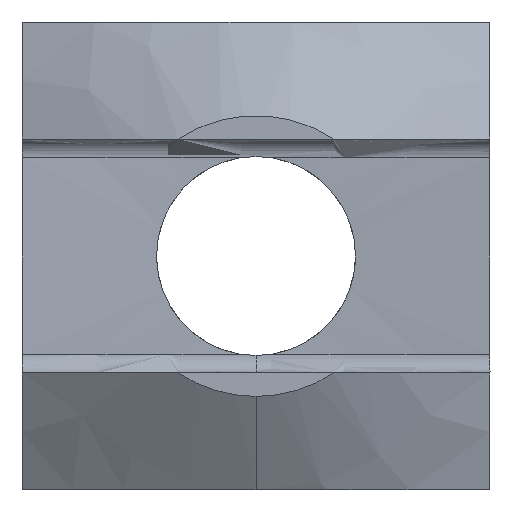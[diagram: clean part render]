
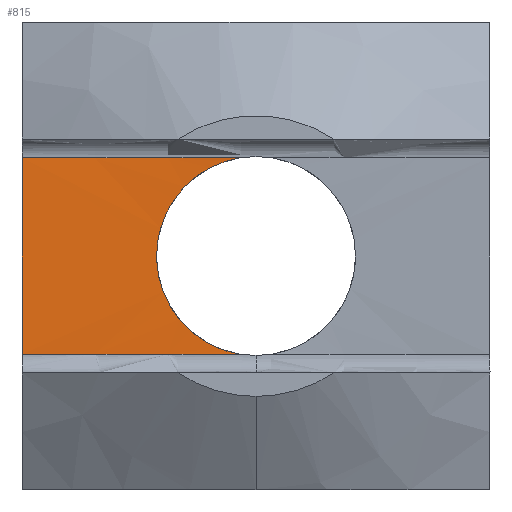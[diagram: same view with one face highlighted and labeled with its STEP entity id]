
A CAD part, left-side view. The second image highlights one B-rep face of the part: STEP entity #815.
In plain terms, the highlighted cylindrical face has radius 125 mm (diameter 250 mm), a partial arc.
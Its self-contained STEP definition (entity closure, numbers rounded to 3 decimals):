
#11 = VERTEX_POINT ( 'NONE', #666 ) ;
#30 = EDGE_CURVE ( 'NONE', #1112, #1405, #437, .T. ) ;
#32 = AXIS2_PLACEMENT_3D ( 'NONE', #301, #1082, #426 ) ;
#56 = CARTESIAN_POINT ( 'NONE',  ( 20.396, 1.147, -4.1 ) ) ;
#158 = CARTESIAN_POINT ( 'NONE',  ( 20.396, 1.143, 4.101 ) ) ;
#169 = CARTESIAN_POINT ( 'NONE',  ( 20.39, 1.616, 3.939 ) ) ;
#192 = ORIENTED_EDGE ( 'NONE', *, *, #967, .F. ) ;
#235 = CARTESIAN_POINT ( 'NONE',  ( 20., 10., 4.2 ) ) ;
#279 = CARTESIAN_POINT ( 'NONE',  ( 20.355, 3.391, 2.575 ) ) ;
#283 = CARTESIAN_POINT ( 'NONE',  ( 20.334, 4.073, -1.238 ) ) ;
#289 = CARTESIAN_POINT ( 'NONE',  ( 20.398, 0.9, -4.161 ) ) ;
#301 = CARTESIAN_POINT ( 'NONE',  ( -104.599, 0., 0. ) ) ;
#307 = CARTESIAN_POINT ( 'NONE',  ( 20.399, 0.65, -4.2 ) ) ;
#338 = ORIENTED_EDGE ( 'NONE', *, *, #395, .F. ) ;
#388 = CARTESIAN_POINT ( 'NONE',  ( 20.343, 3.789, 1.941 ) ) ;
#393 = CARTESIAN_POINT ( 'NONE',  ( 20.376, 2.494, 3.45 ) ) ;
#395 = EDGE_CURVE ( 'NONE', #11, #1112, #1018, .T. ) ;
#396 = CARTESIAN_POINT ( 'NONE',  ( 20.355, 3.391, -2.574 ) ) ;
#398 = CARTESIAN_POINT ( 'NONE',  ( 20.351, 3.536, 2.371 ) ) ;
#426 = DIRECTION ( 'NONE',  ( 1., 0., 0. ) ) ;
#437 = CIRCLE ( 'NONE', #832, 125. ) ;
#454 = FACE_OUTER_BOUND ( 'NONE', #1254, .T. ) ;
#491 = CARTESIAN_POINT ( 'NONE',  ( 20.328, 4.25, 0.252 ) ) ;
#503 = CARTESIAN_POINT ( 'NONE',  ( 20.399, 0.65, -4.2 ) ) ;
#509 = CARTESIAN_POINT ( 'NONE',  ( 20.363, 3.066, -2.954 ) ) ;
#526 = AXIS2_PLACEMENT_3D ( 'NONE', #985, #1007, #998 ) ;
#606 = CARTESIAN_POINT ( 'NONE',  ( 20.329, 4.228, -0.499 ) ) ;
#609 = CARTESIAN_POINT ( 'NONE',  ( 20.387, 1.846, 3.836 ) ) ;
#614 = CARTESIAN_POINT ( 'NONE',  ( 20.387, 1.851, -3.834 ) ) ;
#622 = CARTESIAN_POINT ( 'NONE',  ( 20.398, 0.9, 4.161 ) ) ;
#656 = DIRECTION ( 'NONE',  ( 0., 0., 1. ) ) ;
#666 = CARTESIAN_POINT ( 'NONE',  ( 20.399, 0.65, 4.2 ) ) ;
#719 = CARTESIAN_POINT ( 'NONE',  ( 20.332, 4.139, 0.998 ) ) ;
#722 = CARTESIAN_POINT ( 'NONE',  ( 20.38, 2.288, -3.59 ) ) ;
#725 = CARTESIAN_POINT ( 'NONE',  ( 20.39, 1.623, -3.936 ) ) ;
#731 = CARTESIAN_POINT ( 'NONE',  ( 20.399, 0.65, 4.2 ) ) ;
#740 = CYLINDRICAL_SURFACE ( 'NONE', #32, 125. ) ;
#801 = DIRECTION ( 'NONE',  ( 0., 0., 1. ) ) ;
#815 = ADVANCED_FACE ( 'NONE', ( #454 ), #740, .F. ) ;
#832 = AXIS2_PLACEMENT_3D ( 'NONE', #981, #656, #1420 ) ;
#833 = CARTESIAN_POINT ( 'NONE',  ( 20.334, 4.073, 1.239 ) ) ;
#836 = CARTESIAN_POINT ( 'NONE',  ( 20., 10., -4.2 ) ) ;
#853 = VERTEX_POINT ( 'NONE', #235 ) ;
#884 = LINE ( 'NONE', #1031, #1231 ) ;
#908 = ORIENTED_EDGE ( 'NONE', *, *, #30, .F. ) ;
#923 = ORIENTED_EDGE ( 'NONE', *, *, #1221, .F. ) ;
#934 = CARTESIAN_POINT ( 'NONE',  ( 20.38, 2.288, 3.591 ) ) ;
#938 = CARTESIAN_POINT ( 'NONE',  ( 20.332, 4.14, -0.992 ) ) ;
#947 = CARTESIAN_POINT ( 'NONE',  ( 20.367, 2.887, -3.129 ) ) ;
#967 = EDGE_CURVE ( 'NONE', #1405, #853, #884, .T. ) ;
#981 = CARTESIAN_POINT ( 'NONE',  ( -104.599, 0., -4.2 ) ) ;
#985 = CARTESIAN_POINT ( 'NONE',  ( -104.599, 0., 4.2 ) ) ;
#998 = DIRECTION ( 'NONE',  ( 1., 0., 0. ) ) ;
#1007 = DIRECTION ( 'NONE',  ( 0., 0., -1. ) ) ;
#1018 = B_SPLINE_CURVE_WITH_KNOTS ( 'NONE', 3,
 ( #731, #622, #158, #169, #609, #934, #393, #1043, #1392, #279, #398, #388, #1154, #833, #719, #1151, #491, #1269, #606, #938, #283, #1169, #1052, #1049, #396, #509, #947, #1158, #722, #614, #725, #56, #289, #503 ),
 .UNSPECIFIED., .F., .F.,
 ( 4, 2, 2, 2, 2, 2, 2, 2, 2, 2, 2, 2, 2, 2, 2, 2, 4 ),
 ( 0., 0.001, 0.001, 0.002, 0.003, 0.004, 0.004, 0.005, 0.006, 0.007, 0.007, 0.008, 0.009, 0.01, 0.01, 0.011, 0.012 ),
 .UNSPECIFIED. ) ;
#1031 = CARTESIAN_POINT ( 'NONE',  ( 20., 10., 0. ) ) ;
#1043 = CARTESIAN_POINT ( 'NONE',  ( 20.368, 2.881, 3.134 ) ) ;
#1049 = CARTESIAN_POINT ( 'NONE',  ( 20.351, 3.539, -2.366 ) ) ;
#1052 = CARTESIAN_POINT ( 'NONE',  ( 20.343, 3.793, -1.934 ) ) ;
#1082 = DIRECTION ( 'NONE',  ( 0., 0., 1. ) ) ;
#1112 = VERTEX_POINT ( 'NONE', #307 ) ;
#1151 = CARTESIAN_POINT ( 'NONE',  ( 20.329, 4.227, 0.506 ) ) ;
#1154 = CARTESIAN_POINT ( 'NONE',  ( 20.34, 3.899, 1.711 ) ) ;
#1158 = CARTESIAN_POINT ( 'NONE',  ( 20.376, 2.498, -3.447 ) ) ;
#1169 = CARTESIAN_POINT ( 'NONE',  ( 20.34, 3.9, -1.708 ) ) ;
#1190 = CIRCLE ( 'NONE', #526, 125. ) ;
#1221 = EDGE_CURVE ( 'NONE', #853, #11, #1190, .T. ) ;
#1231 = VECTOR ( 'NONE', #801, 1000. ) ;
#1254 = EDGE_LOOP ( 'NONE', ( #338, #923, #192, #908 ) ) ;
#1269 = CARTESIAN_POINT ( 'NONE',  ( 20.328, 4.25, -0.25 ) ) ;
#1392 = CARTESIAN_POINT ( 'NONE',  ( 20.363, 3.063, 2.957 ) ) ;
#1405 = VERTEX_POINT ( 'NONE', #836 ) ;
#1420 = DIRECTION ( 'NONE',  ( 1., 0., 0. ) ) ;
